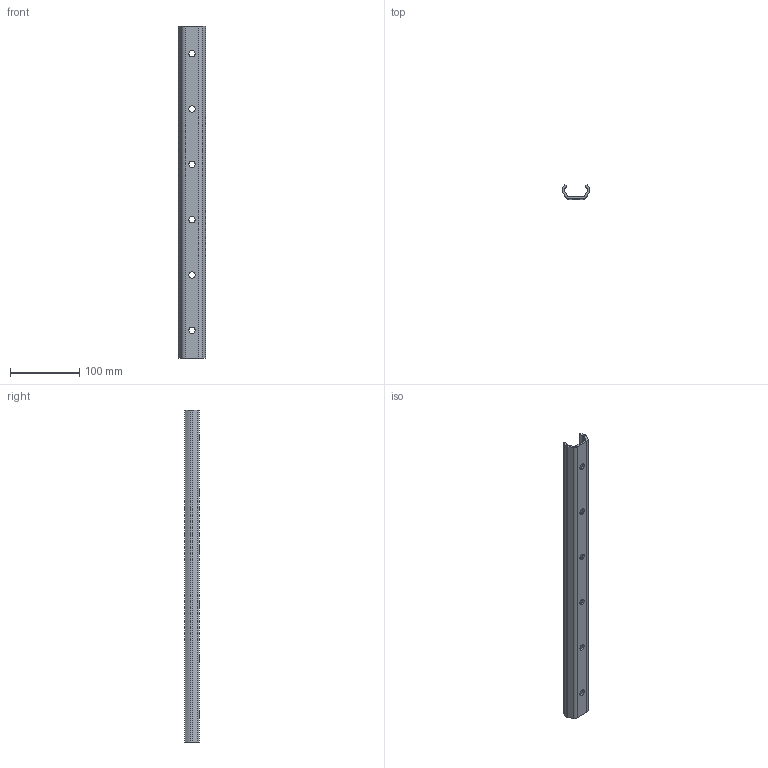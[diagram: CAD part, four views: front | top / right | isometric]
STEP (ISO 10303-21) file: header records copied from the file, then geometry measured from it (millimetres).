
FILE_DESCRIPTION(('STEP AP214'),'1');
FILE_NAME('rail_tex40-480.stp','2019-03-08T08:32:54',('TraceParts'),('TraceParts S.A.'),'Spatial InterOp 3D',' ',' ');
FILE_SCHEMA(('automotive_design'));
Length unit declared in the file: millimetre
Products named in the file (1): rail_tex40-480
Bounding box: 39.53 x 21 x 480 mm (x, y, z)
Volume: 93831.1 mm3; surface area: 66444 mm2
Topology: 1 solids, 1 shells, 152 faces, 396 edges, 264 vertices
Faces by surface type: plane 106, cylinder 24, bspline 22
Entity records: 9253 total; most frequent: CARTESIAN_POINT 4347, ORIENTED_EDGE 792, DIRECTION 662, EDGE_CURVE 396, LINE 304, VECTOR 304, VERTEX_POINT 264, EDGE_LOOP 182
